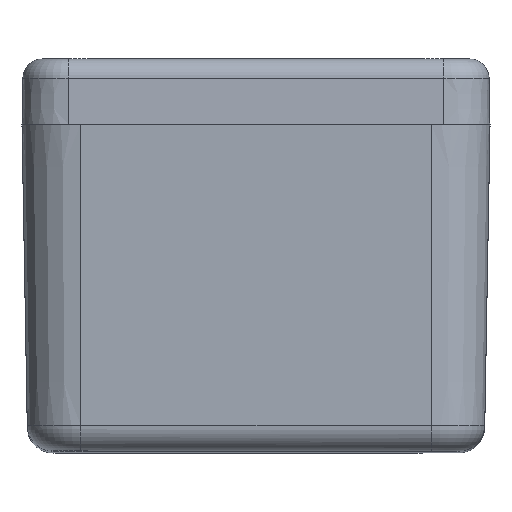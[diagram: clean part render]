
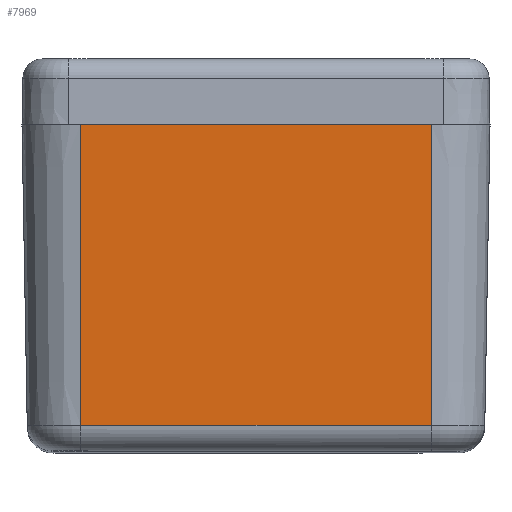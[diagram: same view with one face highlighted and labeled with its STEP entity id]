
A CAD part, top view. The second image highlights one B-rep face of the part: STEP entity #7969.
In plain terms, the highlighted planar face has unit normal (0, -0.018, 1).
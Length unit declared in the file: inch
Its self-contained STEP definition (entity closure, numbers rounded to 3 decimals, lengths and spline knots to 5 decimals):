
#449 = CARTESIAN_POINT ( 'NONE',  ( 0., 0., 1.76575 ) ) ;
#637 = CARTESIAN_POINT ( 'NONE',  ( 0.52756, -0.90689, 1.74992 ) ) ;
#640 = DIRECTION ( 'NONE',  ( 0., 1., 0.017 ) ) ;
#848 = DIRECTION ( 'NONE',  ( 1., 0., 0. ) ) ;
#905 = VERTEX_POINT ( 'NONE', #5339 ) ;
#967 = ORIENTED_EDGE ( 'NONE', *, *, #4724, .F. ) ;
#1191 = DIRECTION ( 'NONE',  ( 0., 1., 0.017 ) ) ;
#1343 = CARTESIAN_POINT ( 'NONE',  ( -0.52756, 0., 1.76575 ) ) ;
#1537 = DIRECTION ( 'NONE',  ( 1., 0., 0. ) ) ;
#1631 = AXIS2_PLACEMENT_3D ( 'NONE', #449, #7244, #5703 ) ;
#2263 = VECTOR ( 'NONE', #848, 39.37008 ) ;
#2513 = EDGE_CURVE ( 'NONE', #905, #7638, #6162, .T. ) ;
#3027 = LINE ( 'NONE', #637, #3838 ) ;
#3816 = ORIENTED_EDGE ( 'NONE', *, *, #8932, .F. ) ;
#3838 = VECTOR ( 'NONE', #1537, 39.37008 ) ;
#4016 = FACE_OUTER_BOUND ( 'NONE', #10327, .T. ) ;
#4039 = CARTESIAN_POINT ( 'NONE',  ( -0.52756, -0.90689, 1.74992 ) ) ;
#4116 = LINE ( 'NONE', #4178, #2263 ) ;
#4178 = CARTESIAN_POINT ( 'NONE',  ( -0.52756, 0., 1.76575 ) ) ;
#4513 = ORIENTED_EDGE ( 'NONE', *, *, #2513, .T. ) ;
#4724 = EDGE_CURVE ( 'NONE', #8547, #7638, #4116, .T. ) ;
#5339 = CARTESIAN_POINT ( 'NONE',  ( 0.52756, -0.90689, 1.74992 ) ) ;
#5703 = DIRECTION ( 'NONE',  ( 0., -1., -0.017 ) ) ;
#6162 = LINE ( 'NONE', #9600, #6291 ) ;
#6291 = VECTOR ( 'NONE', #1191, 39.37008 ) ;
#6841 = ORIENTED_EDGE ( 'NONE', *, *, #10186, .T. ) ;
#7244 = DIRECTION ( 'NONE',  ( 0., -0.017, 1. ) ) ;
#7310 = VERTEX_POINT ( 'NONE', #4039 ) ;
#7638 = VERTEX_POINT ( 'NONE', #9222 ) ;
#7969 = ADVANCED_FACE ( 'NONE', ( #4016 ), #9069, .T. ) ;
#8174 = CARTESIAN_POINT ( 'NONE',  ( -0.52756, 0., 1.76575 ) ) ;
#8547 = VERTEX_POINT ( 'NONE', #1343 ) ;
#8625 = LINE ( 'NONE', #8174, #9958 ) ;
#8932 = EDGE_CURVE ( 'NONE', #7310, #8547, #8625, .T. ) ;
#9069 = PLANE ( 'NONE',  #1631 ) ;
#9222 = CARTESIAN_POINT ( 'NONE',  ( 0.52756, 0., 1.76575 ) ) ;
#9600 = CARTESIAN_POINT ( 'NONE',  ( 0.52756, 0., 1.76575 ) ) ;
#9958 = VECTOR ( 'NONE', #640, 39.37008 ) ;
#10186 = EDGE_CURVE ( 'NONE', #7310, #905, #3027, .T. ) ;
#10327 = EDGE_LOOP ( 'NONE', ( #3816, #6841, #4513, #967 ) ) ;
